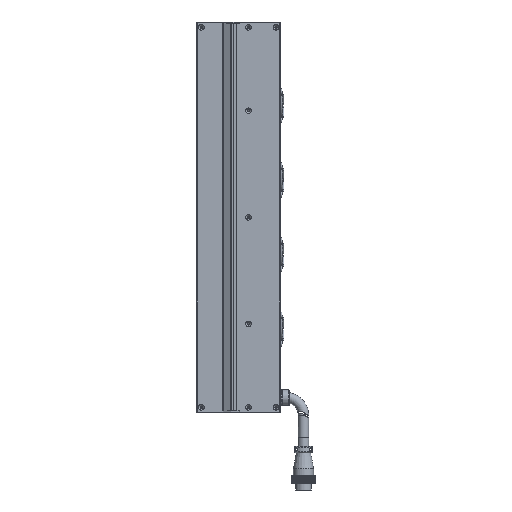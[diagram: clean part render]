
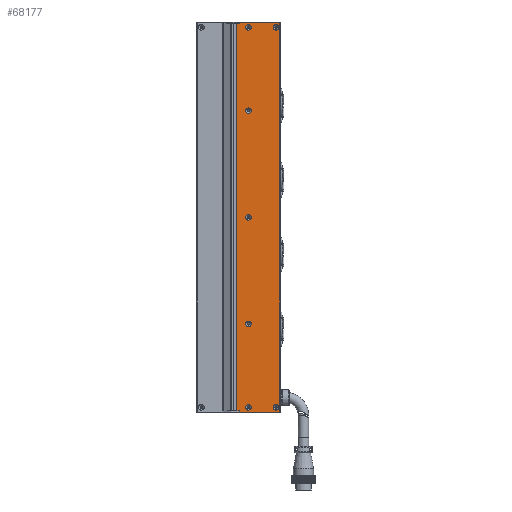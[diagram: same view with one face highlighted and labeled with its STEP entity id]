
A CAD part, left-side view. The second image highlights one B-rep face of the part: STEP entity #68177.
In plain terms, the highlighted planar face has unit normal (-1, 0, 0).
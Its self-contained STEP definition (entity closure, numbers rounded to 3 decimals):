
#732 = ORIENTED_EDGE ( 'NONE', *, *, #80963, .T. ) ;
#774 = VERTEX_POINT ( 'NONE', #83172 ) ;
#1839 = LINE ( 'NONE', #80013, #89528 ) ;
#3119 = CARTESIAN_POINT ( 'NONE',  ( -24.998, -72., 218. ) ) ;
#3261 = DIRECTION ( 'NONE',  ( -1., 0., 0. ) ) ;
#4106 = EDGE_CURVE ( 'NONE', #37431, #7579, #82206, .T. ) ;
#4729 = VERTEX_POINT ( 'NONE', #23607 ) ;
#5145 = EDGE_CURVE ( 'NONE', #6160, #6160, #63197, .T. ) ;
#5220 = CARTESIAN_POINT ( 'NONE',  ( -24.998, -36.5, -210.85 ) ) ;
#5285 = CIRCLE ( 'NONE', #13653, 3.15 ) ;
#6015 = PLANE ( 'NONE',  #41437 ) ;
#6160 = VERTEX_POINT ( 'NONE', #75188 ) ;
#7459 = FACE_BOUND ( 'NONE', #81053, .T. ) ;
#7579 = VERTEX_POINT ( 'NONE', #58521 ) ;
#8124 = DIRECTION ( 'NONE',  ( 0., -1., 0. ) ) ;
#9182 = EDGE_CURVE ( 'NONE', #91625, #36253, #95471, .T. ) ;
#11178 = DIRECTION ( 'NONE',  ( 0., 0., 1. ) ) ;
#12092 = DIRECTION ( 'NONE',  ( 0., 0., 1. ) ) ;
#13013 = ORIENTED_EDGE ( 'NONE', *, *, #43610, .T. ) ;
#13653 = AXIS2_PLACEMENT_3D ( 'NONE', #19428, #91986, #18749 ) ;
#14568 = LINE ( 'NONE', #36468, #56033 ) ;
#16111 = FACE_BOUND ( 'NONE', #39873, .T. ) ;
#16198 = ORIENTED_EDGE ( 'NONE', *, *, #24494, .F. ) ;
#16345 = EDGE_LOOP ( 'NONE', ( #63119 ) ) ;
#18527 = ORIENTED_EDGE ( 'NONE', *, *, #73870, .F. ) ;
#18749 = DIRECTION ( 'NONE',  ( 0., 0., 1. ) ) ;
#19428 = CARTESIAN_POINT ( 'NONE',  ( -24.998, -36.5, 214. ) ) ;
#19611 = DIRECTION ( 'NONE',  ( 0., 0., -1. ) ) ;
#19850 = CARTESIAN_POINT ( 'NONE',  ( -24.998, -72., -219.5 ) ) ;
#19905 = FACE_BOUND ( 'NONE', #62901, .T. ) ;
#20333 = LINE ( 'NONE', #3119, #39172 ) ;
#21829 = VERTEX_POINT ( 'NONE', #81353 ) ;
#22686 = DIRECTION ( 'NONE',  ( 0., 0., 1. ) ) ;
#23607 = CARTESIAN_POINT ( 'NONE',  ( -24.998, -67.5, 217.15 ) ) ;
#24494 = EDGE_CURVE ( 'NONE', #43569, #43569, #57562, .T. ) ;
#26332 = ORIENTED_EDGE ( 'NONE', *, *, #71661, .T. ) ;
#26654 = ORIENTED_EDGE ( 'NONE', *, *, #5145, .F. ) ;
#27445 = CARTESIAN_POINT ( 'NONE',  ( -24.998, -26.5, -219.5 ) ) ;
#28647 = FACE_BOUND ( 'NONE', #79073, .T. ) ;
#28704 = AXIS2_PLACEMENT_3D ( 'NONE', #84143, #75727, #92532 ) ;
#29421 = DIRECTION ( 'NONE',  ( 0., 0., 1. ) ) ;
#30406 = AXIS2_PLACEMENT_3D ( 'NONE', #100213, #3261, #67292 ) ;
#36253 = VERTEX_POINT ( 'NONE', #103938 ) ;
#36468 = CARTESIAN_POINT ( 'NONE',  ( -24.998, -26.5, -211. ) ) ;
#37410 = CARTESIAN_POINT ( 'NONE',  ( -24.998, -36.5, -214. ) ) ;
#37431 = VERTEX_POINT ( 'NONE', #96128 ) ;
#37487 = EDGE_LOOP ( 'NONE', ( #26654 ) ) ;
#39172 = VECTOR ( 'NONE', #11178, 1000. ) ;
#39332 = EDGE_CURVE ( 'NONE', #4729, #4729, #62717, .T. ) ;
#39873 = EDGE_LOOP ( 'NONE', ( #61892 ) ) ;
#41437 = AXIS2_PLACEMENT_3D ( 'NONE', #61987, #78081, #54326 ) ;
#41949 = DIRECTION ( 'NONE',  ( 0., 0., -1. ) ) ;
#42536 = CARTESIAN_POINT ( 'NONE',  ( -24.998, -23.25, -218. ) ) ;
#42625 = EDGE_LOOP ( 'NONE', ( #26332, #13013, #732, #69604, #72345, #98505, #84977, #89247 ) ) ;
#43407 = VECTOR ( 'NONE', #96342, 1000. ) ;
#43569 = VERTEX_POINT ( 'NONE', #5220 ) ;
#43610 = EDGE_CURVE ( 'NONE', #21829, #51709, #14568, .T. ) ;
#44925 = CARTESIAN_POINT ( 'NONE',  ( -24.998, -26.5, 219.5 ) ) ;
#45489 = DIRECTION ( 'NONE',  ( -1., 0., 0. ) ) ;
#47308 = VECTOR ( 'NONE', #53765, 1000. ) ;
#48341 = CARTESIAN_POINT ( 'NONE',  ( -24.998, -72.5, -219.5 ) ) ;
#49302 = EDGE_CURVE ( 'NONE', #73589, #73589, #5285, .T. ) ;
#49841 = LINE ( 'NONE', #84567, #47308 ) ;
#51305 = CARTESIAN_POINT ( 'NONE',  ( -24.998, -36.5, 123.15 ) ) ;
#51709 = VERTEX_POINT ( 'NONE', #27445 ) ;
#52534 = FACE_BOUND ( 'NONE', #16345, .T. ) ;
#53765 = DIRECTION ( 'NONE',  ( 0., -1., 0. ) ) ;
#54326 = DIRECTION ( 'NONE',  ( 0., 0., -1. ) ) ;
#56033 = VECTOR ( 'NONE', #19611, 1000. ) ;
#57055 = CARTESIAN_POINT ( 'NONE',  ( -24.998, -26.5, 211. ) ) ;
#57382 = CIRCLE ( 'NONE', #58040, 3.15 ) ;
#57562 = CIRCLE ( 'NONE', #77667, 3.15 ) ;
#57569 = FACE_OUTER_BOUND ( 'NONE', #42625, .T. ) ;
#58040 = AXIS2_PLACEMENT_3D ( 'NONE', #84812, #70062, #29421 ) ;
#58521 = CARTESIAN_POINT ( 'NONE',  ( -24.998, -23.25, 218. ) ) ;
#58768 = FACE_BOUND ( 'NONE', #37487, .T. ) ;
#61334 = VERTEX_POINT ( 'NONE', #62150 ) ;
#61892 = ORIENTED_EDGE ( 'NONE', *, *, #77087, .F. ) ;
#61987 = CARTESIAN_POINT ( 'NONE',  ( -24.998, -72.5, 218. ) ) ;
#62150 = CARTESIAN_POINT ( 'NONE',  ( -24.998, -72., 219.5 ) ) ;
#62223 = VERTEX_POINT ( 'NONE', #19850 ) ;
#62717 = CIRCLE ( 'NONE', #28704, 3.15 ) ;
#62901 = EDGE_LOOP ( 'NONE', ( #18527 ) ) ;
#63119 = ORIENTED_EDGE ( 'NONE', *, *, #74917, .F. ) ;
#63197 = CIRCLE ( 'NONE', #30406, 3.15 ) ;
#64657 = VERTEX_POINT ( 'NONE', #65996 ) ;
#64688 = LINE ( 'NONE', #87229, #43407 ) ;
#65996 = CARTESIAN_POINT ( 'NONE',  ( -24.998, -36.5, 3.15 ) ) ;
#67292 = DIRECTION ( 'NONE',  ( 0., 0., 1. ) ) ;
#67296 = ORIENTED_EDGE ( 'NONE', *, *, #39332, .F. ) ;
#68177 = ADVANCED_FACE ( 'NONE', ( #80060, #28647, #58768, #52534, #16111, #19905, #7459, #57569 ), #6015, .F. ) ;
#69097 = VECTOR ( 'NONE', #41949, 1000. ) ;
#69604 = ORIENTED_EDGE ( 'NONE', *, *, #83550, .T. ) ;
#69678 = VERTEX_POINT ( 'NONE', #51305 ) ;
#70062 = DIRECTION ( 'NONE',  ( -1., 0., 0. ) ) ;
#70762 = EDGE_LOOP ( 'NONE', ( #67296 ) ) ;
#71661 = EDGE_CURVE ( 'NONE', #37431, #21829, #49841, .T. ) ;
#72345 = ORIENTED_EDGE ( 'NONE', *, *, #94232, .T. ) ;
#73589 = VERTEX_POINT ( 'NONE', #96184 ) ;
#73767 = DIRECTION ( 'NONE',  ( 0., 0., 1. ) ) ;
#73811 = CIRCLE ( 'NONE', #92090, 3.15 ) ;
#73870 = EDGE_CURVE ( 'NONE', #774, #774, #73811, .T. ) ;
#74917 = EDGE_CURVE ( 'NONE', #64657, #64657, #95068, .T. ) ;
#75188 = CARTESIAN_POINT ( 'NONE',  ( -24.998, -36.5, -116.85 ) ) ;
#75727 = DIRECTION ( 'NONE',  ( -1., 0., 0. ) ) ;
#76658 = DIRECTION ( 'NONE',  ( 0., 0., 1. ) ) ;
#77087 = EDGE_CURVE ( 'NONE', #69678, #69678, #57382, .T. ) ;
#77138 = VECTOR ( 'NONE', #12092, 1000. ) ;
#77667 = AXIS2_PLACEMENT_3D ( 'NONE', #37410, #45489, #76658 ) ;
#78081 = DIRECTION ( 'NONE',  ( 1., 0., 0. ) ) ;
#79073 = EDGE_LOOP ( 'NONE', ( #96978 ) ) ;
#80013 = CARTESIAN_POINT ( 'NONE',  ( -24.998, -72.5, 218. ) ) ;
#80060 = FACE_BOUND ( 'NONE', #70762, .T. ) ;
#80643 = EDGE_CURVE ( 'NONE', #7579, #36253, #1839, .T. ) ;
#80963 = EDGE_CURVE ( 'NONE', #51709, #62223, #82012, .T. ) ;
#81053 = EDGE_LOOP ( 'NONE', ( #16198 ) ) ;
#81353 = CARTESIAN_POINT ( 'NONE',  ( -24.998, -26.5, -218. ) ) ;
#82012 = LINE ( 'NONE', #48341, #83304 ) ;
#82206 = LINE ( 'NONE', #42536, #77138 ) ;
#83172 = CARTESIAN_POINT ( 'NONE',  ( -24.998, -67.5, -210.85 ) ) ;
#83304 = VECTOR ( 'NONE', #8124, 1000. ) ;
#83550 = EDGE_CURVE ( 'NONE', #62223, #61334, #20333, .T. ) ;
#84143 = CARTESIAN_POINT ( 'NONE',  ( -24.998, -67.5, 214. ) ) ;
#84567 = CARTESIAN_POINT ( 'NONE',  ( -24.998, -72.5, -218. ) ) ;
#84812 = CARTESIAN_POINT ( 'NONE',  ( -24.998, -36.5, 120. ) ) ;
#84977 = ORIENTED_EDGE ( 'NONE', *, *, #80643, .F. ) ;
#86846 = DIRECTION ( 'NONE',  ( -1., 0., 0. ) ) ;
#87229 = CARTESIAN_POINT ( 'NONE',  ( -24.998, -72.5, 219.5 ) ) ;
#89247 = ORIENTED_EDGE ( 'NONE', *, *, #4106, .F. ) ;
#89483 = AXIS2_PLACEMENT_3D ( 'NONE', #98651, #90262, #73767 ) ;
#89528 = VECTOR ( 'NONE', #96149, 1000. ) ;
#90262 = DIRECTION ( 'NONE',  ( -1., 0., 0. ) ) ;
#91625 = VERTEX_POINT ( 'NONE', #44925 ) ;
#91986 = DIRECTION ( 'NONE',  ( -1., 0., 0. ) ) ;
#92090 = AXIS2_PLACEMENT_3D ( 'NONE', #101576, #86846, #22686 ) ;
#92532 = DIRECTION ( 'NONE',  ( 0., 0., 1. ) ) ;
#94232 = EDGE_CURVE ( 'NONE', #61334, #91625, #64688, .T. ) ;
#95068 = CIRCLE ( 'NONE', #89483, 3.15 ) ;
#95471 = LINE ( 'NONE', #57055, #69097 ) ;
#96128 = CARTESIAN_POINT ( 'NONE',  ( -24.998, -23.25, -218. ) ) ;
#96149 = DIRECTION ( 'NONE',  ( 0., -1., 0. ) ) ;
#96184 = CARTESIAN_POINT ( 'NONE',  ( -24.998, -36.5, 217.15 ) ) ;
#96342 = DIRECTION ( 'NONE',  ( 0., 1., 0. ) ) ;
#96978 = ORIENTED_EDGE ( 'NONE', *, *, #49302, .F. ) ;
#98505 = ORIENTED_EDGE ( 'NONE', *, *, #9182, .T. ) ;
#98651 = CARTESIAN_POINT ( 'NONE',  ( -24.998, -36.5, 0. ) ) ;
#100213 = CARTESIAN_POINT ( 'NONE',  ( -24.998, -36.5, -120. ) ) ;
#101576 = CARTESIAN_POINT ( 'NONE',  ( -24.998, -67.5, -214. ) ) ;
#103938 = CARTESIAN_POINT ( 'NONE',  ( -24.998, -26.5, 218. ) ) ;
